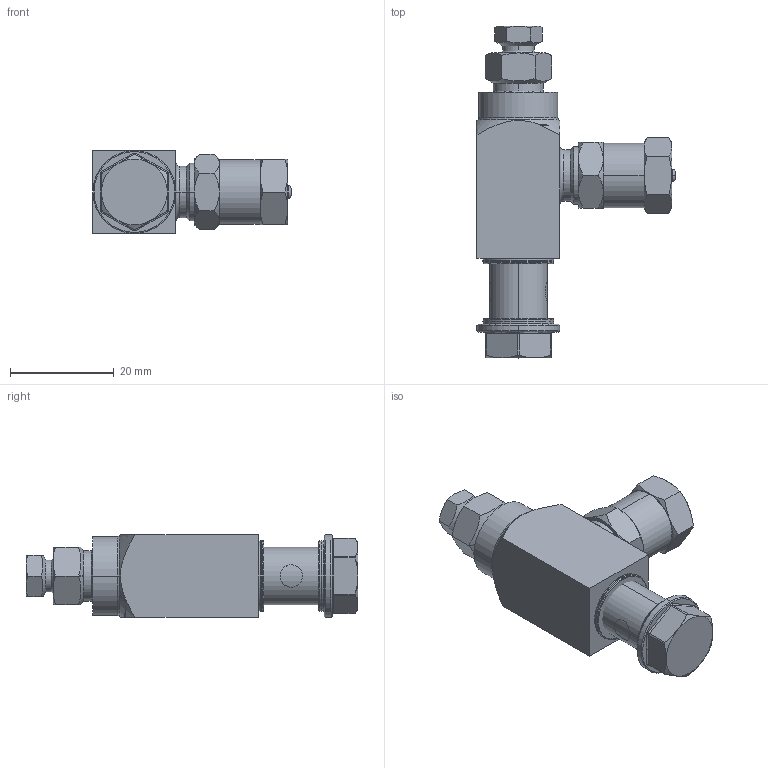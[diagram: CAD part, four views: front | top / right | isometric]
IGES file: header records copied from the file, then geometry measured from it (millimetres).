
Start section:  PTC IGES file: 24w483-en-b.igs
Global section: file name: 24w483-en-b.igs; native system: Creo Parametric by PTC Inc.; preprocessor: 2019030; author: qusrh3; organization: Unknown; date: 20191231.181306; units: inch
Bounding box: 38.22 x 64.06 x 16 mm (x, y, z)
Surface area: 7312.6 mm2 (no closed solid volume)
Topology: 0 solids, 0 shells, 174 faces, 730 edges, 730 vertices
Faces by surface type: revolution 122, bspline 52
